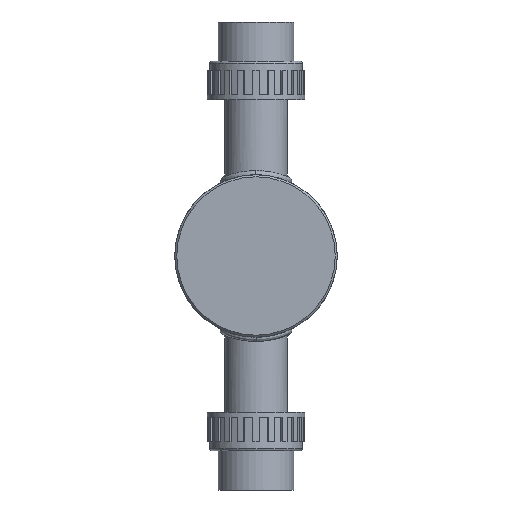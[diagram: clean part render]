
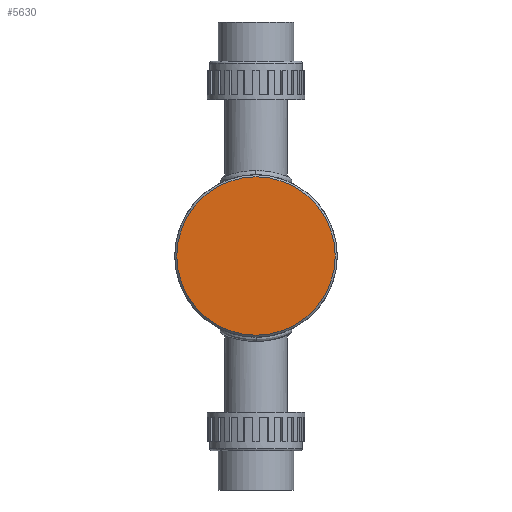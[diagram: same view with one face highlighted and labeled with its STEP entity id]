
A CAD part, front view. The second image highlights one B-rep face of the part: STEP entity #5630.
In plain terms, the highlighted planar face has unit normal (0, -1, 0).
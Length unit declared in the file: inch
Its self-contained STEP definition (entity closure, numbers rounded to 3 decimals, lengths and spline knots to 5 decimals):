
#1059 = DIRECTION ( 'NONE',  ( 0., -1., 0. ) ) ;
#1342 = EDGE_CURVE ( 'NONE', #1868, #6929, #12163, .T. ) ;
#1868 = VERTEX_POINT ( 'NONE', #13128 ) ;
#3976 = DIRECTION ( 'NONE',  ( 0., -1., 0. ) ) ;
#5049 = ORIENTED_EDGE ( 'NONE', *, *, #1342, .T. ) ;
#5629 = CARTESIAN_POINT ( 'NONE',  ( 0., 0., 0. ) ) ;
#5630 = ADVANCED_FACE ( 'NONE', ( #13698 ), #9216, .F. ) ;
#5655 = AXIS2_PLACEMENT_3D ( 'NONE', #8318, #1059, #9545 ) ;
#5835 = EDGE_LOOP ( 'NONE', ( #10370, #5049 ) ) ;
#6830 = DIRECTION ( 'NONE',  ( 0., 0., 1. ) ) ;
#6929 = VERTEX_POINT ( 'NONE', #9654 ) ;
#8318 = CARTESIAN_POINT ( 'NONE',  ( 0., 0., 0. ) ) ;
#9216 = PLANE ( 'NONE',  #15691 ) ;
#9545 = DIRECTION ( 'NONE',  ( 0., 0., 1. ) ) ;
#9654 = CARTESIAN_POINT ( 'NONE',  ( 0., 0., 2.39 ) ) ;
#10370 = ORIENTED_EDGE ( 'NONE', *, *, #13955, .T. ) ;
#10590 = AXIS2_PLACEMENT_3D ( 'NONE', #11248, #3976, #12481 ) ;
#11248 = CARTESIAN_POINT ( 'NONE',  ( 0., 0., 0. ) ) ;
#11447 = CIRCLE ( 'NONE', #10590, 2.39 ) ;
#12163 = CIRCLE ( 'NONE', #5655, 2.39 ) ;
#12481 = DIRECTION ( 'NONE',  ( 0., 0., 1. ) ) ;
#13128 = CARTESIAN_POINT ( 'NONE',  ( 0., 0., -2.39 ) ) ;
#13698 = FACE_OUTER_BOUND ( 'NONE', #5835, .T. ) ;
#13955 = EDGE_CURVE ( 'NONE', #6929, #1868, #11447, .T. ) ;
#14084 = DIRECTION ( 'NONE',  ( 0., 1., 0. ) ) ;
#15691 = AXIS2_PLACEMENT_3D ( 'NONE', #5629, #14084, #6830 ) ;
